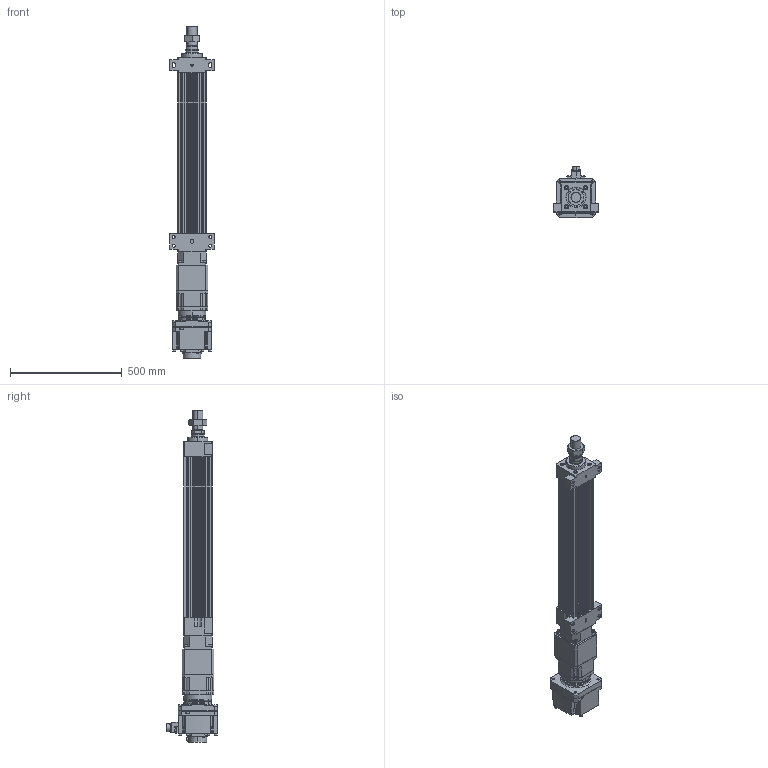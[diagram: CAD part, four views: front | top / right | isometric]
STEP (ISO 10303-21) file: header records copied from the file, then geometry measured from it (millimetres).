
FILE_DESCRIPTION (( 'STEP AP203' ), '1' );
FILE_NAME ('HES130FS(HS)-S500-W020G00-M-FFB.STEP', '2023-01-30T12:39:46', ( 'tms' ), ( '' ), 'SwSTEP 2.0', 'SolidWorks 2013', '' );
FILE_SCHEMA (( 'CONFIG_CONTROL_DESIGN' ));
Length unit declared in the file: millimetre
Products named in the file (9): P1301500001; AB1421; HG-SR202; HES130 ROD M ST500; HES130FS(HS)-S500-W020G00-M-FFB; M45X1.5P; P0403500801; HES130-S500-G142-FFB; AB142-003[HG-SR352]
Assembly tree (8 placements, depth 3):
  HES130FS(HS)-S500-W020G00-M-FFB
    HES130-S500-G142-FFB
    HES130 ROD M ST500
    M45X1.5P
    AB142-003[HG-SR352]
      AB1421
      P1301500001
      P0403500801
    HG-SR202
Bounding box: 200 x 228.85 x 1487.5 mm (x, y, z)
Volume: 13220314.7 mm3; surface area: 1712522.8 mm2
Topology: 4 solids, 22 shells, 1518 faces, 3922 edges, 2545 vertices
Faces by surface type: cylinder 676, plane 600, cone 160, bspline 76, torus 6
Entity records: 55270 total; most frequent: CARTESIAN_POINT 16778, DIRECTION 8032, ORIENTED_EDGE 7750, EDGE_CURVE 3897, AXIS2_PLACEMENT_3D 3016, VERTEX_POINT 2545, LINE 2000, VECTOR 2000
